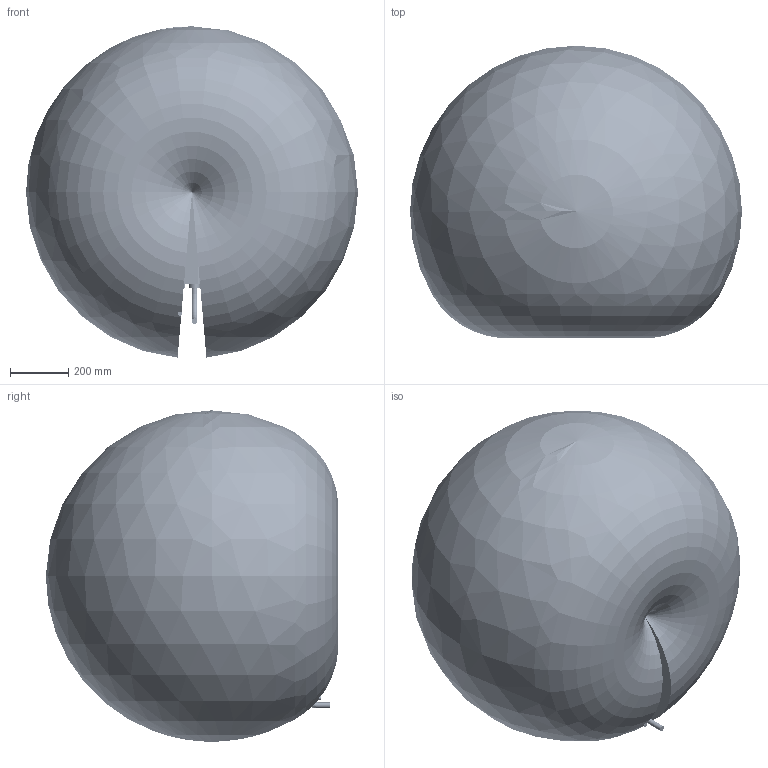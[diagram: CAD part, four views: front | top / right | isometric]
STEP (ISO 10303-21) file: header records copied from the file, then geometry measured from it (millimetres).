
FILE_DESCRIPTION (( 'STEP AP203' ), '1' );
FILE_NAME ('Mantis570-A3褫雄耀倰.STEP', '2024-04-25T01:50:44', ( '' ), ( '' ), 'SwSTEP 2.0', 'SolidWorks 2021', '' );
FILE_SCHEMA (( 'CONFIG_CONTROL_DESIGN' ));
Length unit declared in the file: millimetre
Products named in the file (8): 葩璃 1.310A3.21.000.A^Mantis570-A3褫雄耀倰; 葩璃 1.310A3.23.000.A^Mantis570-A3褫雄耀倰; 葩璃 1.310A3.25.000.A^Mantis570-A3褫雄耀倰; 葩璃 1.310A3.26.000.A^Mantis570-A3褫雄耀倰; Mantis570-A3褫雄耀倰; 复件 工作范围-Mantis570^Mantis570-A3可动模型; 葩璃 1.310A3.22.000.A^Mantis570-A3褫雄耀倰; 葩璃 1.310A3.24.000.A^Mantis570-A3褫雄耀倰
Assembly tree (7 placements, depth 2):
  Mantis570-A3褫雄耀倰
    葩璃 1.310A3.21.000.A^Mantis570-A3褫雄耀倰
    葩璃 1.310A3.22.000.A^Mantis570-A3褫雄耀倰
    葩璃 1.310A3.23.000.A^Mantis570-A3褫雄耀倰
    葩璃 1.310A3.24.000.A^Mantis570-A3褫雄耀倰
    葩璃 1.310A3.25.000.A^Mantis570-A3褫雄耀倰
    葩璃 1.310A3.26.000.A^Mantis570-A3褫雄耀倰
    复件 工作范围-Mantis570^Mantis570-A3可动模型
Bounding box: 1140 x 1004.12 x 1137.83 mm (x, y, z)
Volume: 717826859.2 mm3; surface area: 6991893.3 mm2
Topology: 61 solids, 61 shells, 4713 faces, 12003 edges, 7291 vertices
Faces by surface type: cylinder 2184, plane 1108, bspline 540, cone 443, torus 351, sphere 87
Entity records: 170658 total; most frequent: CARTESIAN_POINT 57548, DIRECTION 24160, ORIENTED_EDGE 23188, EDGE_CURVE 11594, AXIS2_PLACEMENT_3D 9835, VERTEX_POINT 7283, CIRCLE 5652, EDGE_LOOP 5649
